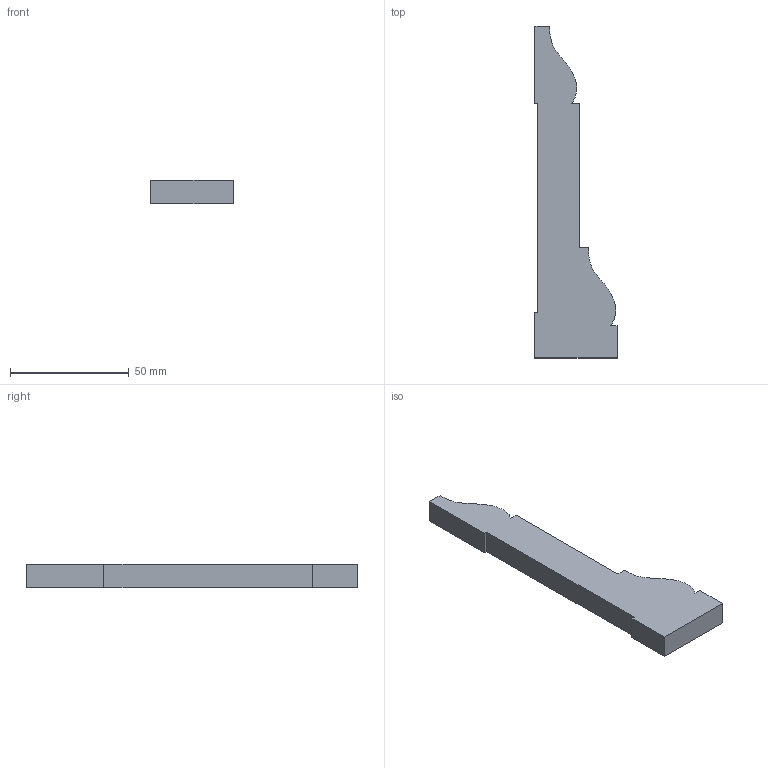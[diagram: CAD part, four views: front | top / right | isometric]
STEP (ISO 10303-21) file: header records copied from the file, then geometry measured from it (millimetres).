
FILE_DESCRIPTION (( 'STEP AP203' ), '1' );
FILE_NAME ('AB204.STEP', '2024-02-17T09:56:46', ( '' ), ( '' ), 'SwSTEP 2.0', 'SolidWorks 2020', '' );
FILE_SCHEMA (( 'CONFIG_CONTROL_DESIGN' ));
Length unit declared in the file: millimetre
Products named in the file (1): AB204
Bounding box: 34.58 x 139.58 x 10 mm (x, y, z)
Volume: 28489.4 mm3; surface area: 9098.1 mm2
Topology: 1 solids, 1 shells, 92 faces, 270 edges, 180 vertices
Faces by surface type: plane 92
Entity records: 3071 total; most frequent: CARTESIAN_POINT 543, ORIENTED_EDGE 540, DIRECTION 456, VECTOR 270, LINE 270, EDGE_CURVE 270, VERTEX_POINT 180, AXIS2_PLACEMENT_3D 93
